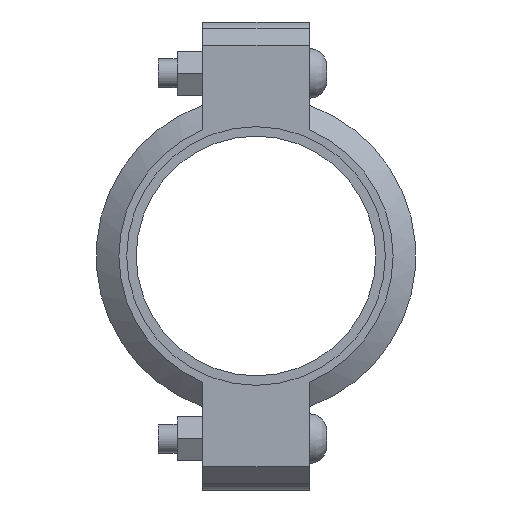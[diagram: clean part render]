
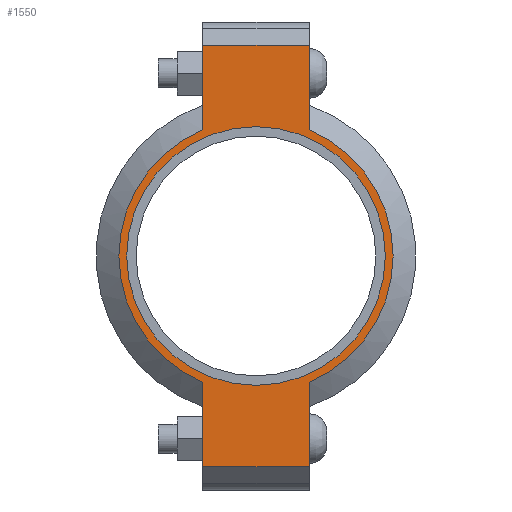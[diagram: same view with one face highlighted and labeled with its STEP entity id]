
A CAD part, left-side view. The second image highlights one B-rep face of the part: STEP entity #1550.
In plain terms, the highlighted planar face has unit normal (-1, 0, 0) as drawn and (0, 0, 1) by its records, which use the part's own axes.
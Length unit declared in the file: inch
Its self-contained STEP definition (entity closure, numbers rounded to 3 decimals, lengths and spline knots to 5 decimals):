
#174=LINE('',#2705,#267);
#182=LINE('',#2741,#275);
#189=LINE('',#2762,#282);
#198=LINE('',#2794,#291);
#199=LINE('',#2798,#292);
#200=LINE('',#2800,#293);
#267=VECTOR('',#2205,0.3937);
#275=VECTOR('',#2221,0.3937);
#282=VECTOR('',#2240,0.3937);
#291=VECTOR('',#2265,0.3937);
#292=VECTOR('',#2270,0.3937);
#293=VECTOR('',#2271,0.3937);
#349=FACE_BOUND('',#527,.T.);
#421=FACE_OUTER_BOUND('',#526,.T.);
#526=EDGE_LOOP('',(#1291,#1292,#1293,#1294,#1295,#1296,#1297,#1298));
#527=EDGE_LOOP('',(#1299));
#599=CIRCLE('',#1769,2.7815);
#625=CIRCLE('',#1828,2.95);
#626=CIRCLE('',#1829,2.95);
#691=VERTEX_POINT('',#2521);
#734=VERTEX_POINT('',#2702);
#735=VERTEX_POINT('',#2704);
#746=VERTEX_POINT('',#2736);
#747=VERTEX_POINT('',#2740);
#754=VERTEX_POINT('',#2759);
#755=VERTEX_POINT('',#2761);
#765=VERTEX_POINT('',#2797);
#766=VERTEX_POINT('',#2799);
#847=EDGE_CURVE('',#691,#691,#599,.T.);
#908=EDGE_CURVE('',#735,#734,#174,.T.);
#922=EDGE_CURVE('',#747,#746,#182,.T.);
#932=EDGE_CURVE('',#755,#754,#189,.T.);
#947=EDGE_CURVE('',#747,#734,#198,.T.);
#948=EDGE_CURVE('',#746,#755,#625,.T.);
#949=EDGE_CURVE('',#765,#754,#199,.T.);
#950=EDGE_CURVE('',#765,#766,#200,.T.);
#951=EDGE_CURVE('',#766,#735,#626,.T.);
#1291=ORIENTED_EDGE('',*,*,#947,.F.);
#1292=ORIENTED_EDGE('',*,*,#922,.T.);
#1293=ORIENTED_EDGE('',*,*,#948,.T.);
#1294=ORIENTED_EDGE('',*,*,#932,.T.);
#1295=ORIENTED_EDGE('',*,*,#949,.F.);
#1296=ORIENTED_EDGE('',*,*,#950,.T.);
#1297=ORIENTED_EDGE('',*,*,#951,.T.);
#1298=ORIENTED_EDGE('',*,*,#908,.T.);
#1299=ORIENTED_EDGE('',*,*,#847,.T.);
#1392=PLANE('',#1827);
#1550=ADVANCED_FACE('',(#421,#349),#1392,.T.);
#1769=AXIS2_PLACEMENT_3D('',#2523,#2081,#2082);
#1827=AXIS2_PLACEMENT_3D('',#2795,#2266,#2267);
#1828=AXIS2_PLACEMENT_3D('',#2796,#2268,#2269);
#1829=AXIS2_PLACEMENT_3D('',#2801,#2272,#2273);
#2081=DIRECTION('center_axis',(0.,0.,-1.));
#2082=DIRECTION('ref_axis',(-1.,0.,0.));
#2205=DIRECTION('',(-1.,0.,0.));
#2221=DIRECTION('',(1.,0.,0.));
#2240=DIRECTION('',(1.,0.,0.));
#2265=DIRECTION('',(0.,1.,0.));
#2266=DIRECTION('center_axis',(0.,0.,1.));
#2267=DIRECTION('ref_axis',(1.,0.,0.));
#2268=DIRECTION('center_axis',(0.,0.,1.));
#2269=DIRECTION('ref_axis',(-1.,0.,0.));
#2270=DIRECTION('',(0.,-1.,0.));
#2271=DIRECTION('',(-1.,0.,0.));
#2272=DIRECTION('center_axis',(0.,0.,1.));
#2273=DIRECTION('ref_axis',(-1.,0.,0.));
#2521=CARTESIAN_POINT('',(2.7815,0.,1.065));
#2523=CARTESIAN_POINT('Origin',(0.,0.,1.065));
#2702=CARTESIAN_POINT('',(-4.535,1.15,1.065));
#2704=CARTESIAN_POINT('',(-2.71662,1.15,1.065));
#2705=CARTESIAN_POINT('',(-5.035,1.15,1.065));
#2736=CARTESIAN_POINT('',(-2.71662,-1.15,1.065));
#2740=CARTESIAN_POINT('',(-4.535,-1.15,1.065));
#2741=CARTESIAN_POINT('',(5.035,-1.15,1.065));
#2759=CARTESIAN_POINT('',(4.535,-1.15,1.065));
#2761=CARTESIAN_POINT('',(2.71662,-1.15,1.065));
#2762=CARTESIAN_POINT('',(5.035,-1.15,1.065));
#2794=CARTESIAN_POINT('',(-4.535,0.575,1.065));
#2795=CARTESIAN_POINT('Origin',(0.,0.,1.065));
#2796=CARTESIAN_POINT('Origin',(0.,0.,1.065));
#2797=CARTESIAN_POINT('',(4.535,1.15,1.065));
#2798=CARTESIAN_POINT('',(4.535,-0.575,1.065));
#2799=CARTESIAN_POINT('',(2.71662,1.15,1.065));
#2800=CARTESIAN_POINT('',(-5.035,1.15,1.065));
#2801=CARTESIAN_POINT('Origin',(0.,0.,1.065));
